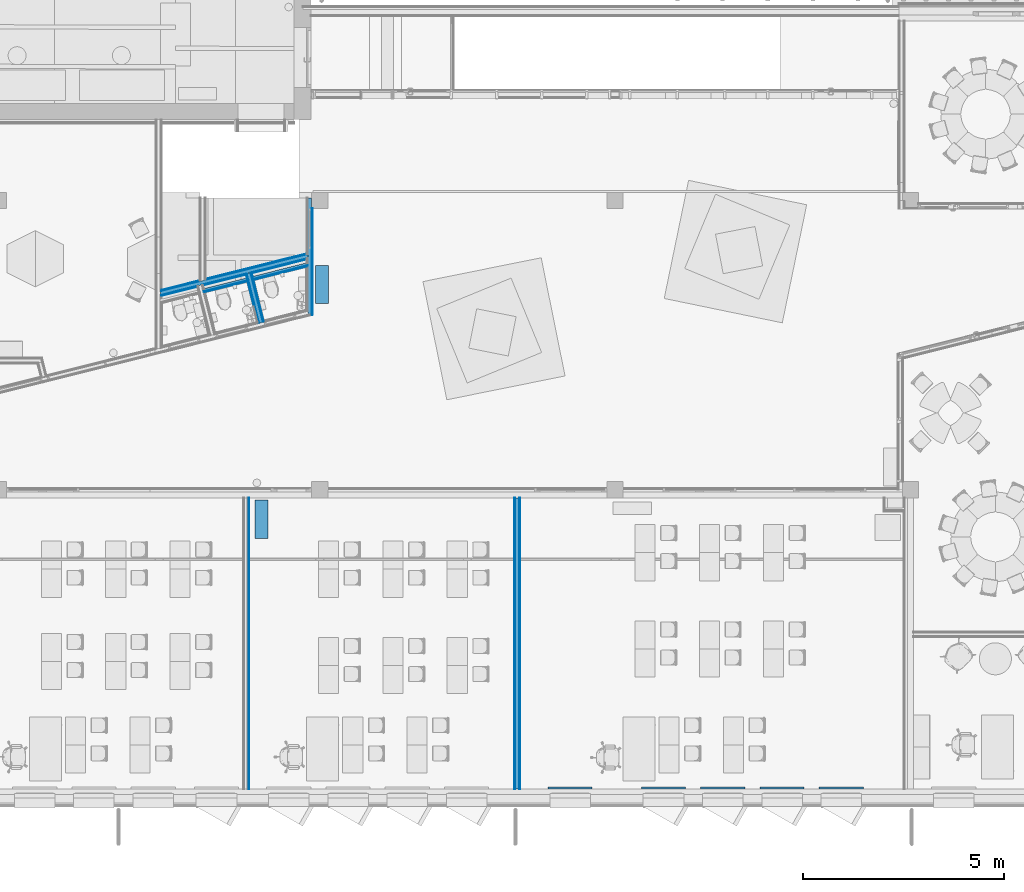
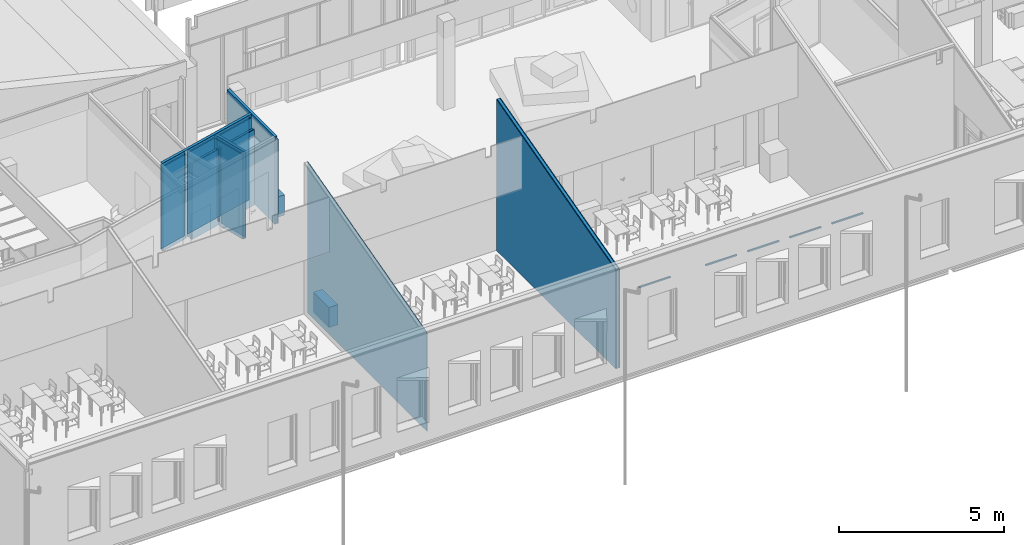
# One storey, part 56 of 153: 25 building element parts, 7 discrete accessories, 1 opening, 7 elements without a shape of their own.
"""IFC2X3 building model written with IfcOpenShell, lengths in millimetres."""

from ifc_helpers import new_model, entity, si_unit, converted_unit, derived_unit, money_unit, direction, frame, origin_with_axes, place, context, subcontext, project, spatial, faceted_brep, material, type_object, element, aggregate, save


model = new_model("IFC2X3")

# Units and contexts
model_context = context("Model", 3, precision=0.01, world=origin_with_axes(), true_north=direction((0.0, 1.0)))
body_context = subcontext(model_context, "Body", "Model", "MODEL_VIEW")
ifc_project = project(units=[si_unit("LENGTHUNIT", "METRE", prefix="MILLI"), si_unit("AREAUNIT", "SQUARE_METRE"), si_unit("VOLUMEUNIT", "CUBIC_METRE"), converted_unit("PLANEANGLEUNIT", "DEGREE", entity("IfcPlaneAngleMeasure", 0.0174532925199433), si_unit("PLANEANGLEUNIT", "RADIAN"), dimensions=[0, 0, 0, 0, 0, 0, 0]), money_unit("EUR"), converted_unit("TIMEUNIT", "Year", entity("IfcTimeMeasure", 31557600.0), si_unit("TIMEUNIT", "SECOND"), dimensions=[0, 0, 1, 0, 0, 0, 0]), si_unit("MASSUNIT", "GRAM", prefix="KILO"), si_unit("THERMODYNAMICTEMPERATUREUNIT", "DEGREE_CELSIUS"), si_unit("LUMINOUSINTENSITYUNIT", "LUMEN"), si_unit("ENERGYUNIT", "JOULE", prefix="MEGA"), derived_unit("THERMALCONDUCTANCEUNIT", [(si_unit("POWERUNIT", "WATT"), 1), (si_unit("LENGTHUNIT", "METRE"), -1), (si_unit("THERMODYNAMICTEMPERATUREUNIT", "KELVIN"), -1)]), derived_unit("SPECIFICHEATCAPACITYUNIT", [(si_unit("ENERGYUNIT", "JOULE"), 1), (si_unit("MASSUNIT", "GRAM", prefix="KILO"), -1), (si_unit("THERMODYNAMICTEMPERATUREUNIT", "KELVIN"), -1)]), derived_unit("MASSDENSITYUNIT", [(si_unit("MASSUNIT", "GRAM", prefix="KILO"), 1), (si_unit("VOLUMEUNIT", "CUBIC_METRE"), -1)])], contexts=[model_context])

# Site, building, storey
site_placement = place(None, frame((0.0, 0.0, 8650.0), z_axis=(0.0, 0.0, 1.0), x_axis=(1.0, 0.0, 0.0)))
site = spatial("IfcSite", under=ifc_project, at=site_placement, Name="43301:001:0844", CompositionType="ELEMENT")
building_placement = place(site_placement, origin_with_axes())
building = spatial("IfcBuilding", under=site, at=building_placement, Name="Kuressaare Ametikooli tuulikute mehaanikute õppekorpus", CompositionType="ELEMENT")
storey_placement = place(building_placement, frame((0.0, 0.0, 4100.0), z_axis=(0.0, 0.0, 1.0), x_axis=(1.0, 0.0, 0.0)))
storey = spatial("IfcBuildingStorey", under=building, at=storey_placement, Name="2.korrus", CompositionType="ELEMENT", Elevation=4100.0)

# Discrete accessories
ifc_material_1 = material(Name="GENEERILINE - KONSTRUKTRIOON")
discrete_accessory_type_1 = type_object("IfcDiscreteAccessoryType", Name="GENEERILINE - KONSTRUKTRIOON 50")
for number, where, z_axis, x_axis, name in (
    (1, (109547.9495291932, 9123.838490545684, 2700.0), (0.0, 0.0, 1.0), (1.0, 0.0, 0.0), "RK"),
    (2, (111872.9495291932, 9123.838490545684, 2700.0), (0.0, 0.0, 1.0), (1.0, 0.0, 0.0), "RK"),
    (3, (113347.9495291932, 9123.838490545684, 2700.0), (0.0, 0.0, 1.0), (1.0, 0.0, 0.0), "RK"),
    (4, (114822.9495291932, 9123.838490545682, 2700.0), (0.0, 0.0, 1.0), (1.0, 0.0, 0.0), "RK"),
    (5, (116297.9495291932, 9123.838490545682, 2700.0), (0.0, 0.0, 1.0), (1.0, 0.0, 0.0), "RK"),
):
    element("IfcDiscreteAccessory", number, at=place(storey_placement, frame(where, z_axis=z_axis, x_axis=x_axis)), inside=storey, type_object=discrete_accessory_type_1, material=ifc_material_1, Name=name, context=body_context, shape_type="Brep", body=[
        faceted_brep([(0.0, 0.0, 49.99999999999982), (0.0, 0.0, 0.0), (1099.999999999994, 0.0, 0.0), (1099.999999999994, 0.0, 49.99999999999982), (0.0, 50.00000000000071, 49.99999999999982), (0.0, 50.00000000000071, 0.0), (1099.999999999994, 50.00000000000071, 0.0), (1099.999999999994, 50.00000000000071, 49.99999999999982)], [[[0, 1, 2, 3]], [[4, 5, 1, 0]], [[2, 1, 5, 6]], [[3, 2, 6, 7]], [[4, 0, 3, 7]], [[7, 6, 5, 4]]]),
    ])
discrete_accessory_type_2 = type_object("IfcDiscreteAccessoryType", Name="GENEERILINE - KONSTRUKTRIOON 750")
discrete_accessory_1_placement = place(storey_placement, frame((102580.4575106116, 16314.40899813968, 0.0), z_axis=(0.0, 0.0, 1.0), x_axis=(1.0, 0.0, 0.0)))
element("IfcDiscreteAccessory", 6, at=discrete_accessory_1_placement, inside=storey, type_object=discrete_accessory_type_2, material=ifc_material_1, Name="PR2", context=body_context, shape_type="Brep", body=[
    faceted_brep([(0.0, 0.0, 750.0), (0.0, 0.0, 0.0), (-319.9999999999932, 0.0, 0.0), (-319.9999999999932, 0.0, 750.0), (0.0, -949.9999999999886, 750.0), (0.0, -949.9999999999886, 0.0), (-319.9999999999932, -949.9999999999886, 0.0), (-319.9999999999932, -949.9999999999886, 750.0)], [[[0, 1, 2, 3]], [[4, 5, 1, 0]], [[2, 1, 5, 6]], [[3, 2, 6, 7]], [[4, 0, 3, 7]], [[7, 6, 5, 4]]]),
])
discrete_accessory_2_placement = place(storey_placement, frame((103762.9734441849, 22158.85674379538, 0.0), z_axis=(0.0, 0.0, 1.0), x_axis=(1.0, 0.0, 0.0)))
element("IfcDiscreteAccessory", 7, at=discrete_accessory_2_placement, inside=storey, type_object=discrete_accessory_type_2, material=ifc_material_1, Name="PR2", context=body_context, shape_type="Brep", body=[
    faceted_brep([(0.0, 0.0, 750.0), (0.0, 0.0, 0.0), (0.0, -949.9999999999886, 0.0), (0.0, -949.9999999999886, 750.0), (319.9999999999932, 0.0, 750.0), (319.9999999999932, 0.0, 0.0), (319.9999999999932, -949.9999999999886, 0.0), (319.9999999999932, -949.9999999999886, 750.0)], [[[0, 1, 2, 3]], [[4, 5, 1, 0]], [[2, 1, 5, 6]], [[3, 2, 6, 7]], [[4, 0, 3, 7]], [[7, 6, 5, 4]]]),
])

# Wall, building element parts
wall_type_1 = type_object("IfcWallType", Name="SS-2.4 92", PredefinedType="NOTDEFINED")
wall_1_placement = place(storey_placement, frame((100867.4838133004, 21454.15929766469, 0.0), z_axis=(0.0, 0.0, 1.0), x_axis=(0.9699953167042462, 0.2431236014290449, 0.0)))
wall_1 = element("IfcWall", 8, at=wall_1_placement, inside=storey, type_object=wall_type_1, Name="Sisesein")
ifc_material_2 = material(Name="Air Space - Frame")
building_element_part_1_placement = place(wall_1_placement, origin_with_axes())
building_element_part_1 = element("IfcBuildingElementPart", 9, at=building_element_part_1_placement, material=ifc_material_2, Name="Air Space - Frame", context=body_context, shape_type="Brep", body=[
    faceted_brep([(1273.000179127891, 25.9997749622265, 0.0), (1273.000179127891, 25.99977496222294, 2800.0), (121.000008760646, 25.99999999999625, 2800.0), (121.000008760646, 25.99999999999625, 0.0), (1273.000192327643, 91.999774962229, 0.0), (1273.000192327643, 91.999774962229, 2800.0), (121.0000309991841, 91.9999999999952, 2800.0), (121.0000309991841, 91.9999999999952, 0.0)], [[[0, 1, 2, 3]], [[1, 0, 4, 5]], [[1, 5, 6, 2]], [[6, 7, 3, 2]], [[4, 0, 3, 7]], [[4, 7, 6, 5]]]),
])
ifc_material_3 = material(Name="Plaster - Gypsum")
building_element_part_2_placement = place(wall_1_placement, origin_with_axes())
building_element_part_2 = element("IfcBuildingElementPart", 10, at=building_element_part_2_placement, material=ifc_material_3, Name="Plaster - Gypsum", context=body_context, shape_type="Brep", body=[
    faceted_brep([(1247.000173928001, -0.0002148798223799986, 0.0), (1247.000173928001, -0.0002148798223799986, 2800.0), (147.0000000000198, 0.0, 2800.0), (147.0000000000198, 0.0, 0.0), (1247.000176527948, 12.99978512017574, 0.0), (1247.000176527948, 12.99978512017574, 2800.0), (147.000004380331, 13.00000000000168, 2800.0), (147.000004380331, 13.00000000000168, 0.0)], [[[0, 1, 2, 3]], [[1, 0, 4, 5]], [[1, 5, 6, 2]], [[6, 7, 3, 2]], [[4, 0, 3, 7]], [[4, 7, 6, 5]]]),
])
ifc_material_4 = material(Name="Plywood")
building_element_part_3_placement = place(wall_1_placement, origin_with_axes())
building_element_part_3 = element("IfcBuildingElementPart", 11, at=building_element_part_3_placement, material=ifc_material_4, Name="Plywood", context=body_context, shape_type="Brep", body=[
    faceted_brep([(1273.000176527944, 12.99977496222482, 0.0), (1273.000176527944, 12.99977496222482, 2800.0), (121.0000043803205, 13.00000000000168, 2800.0), (121.0000043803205, 13.00000000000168, 0.0), (1273.000179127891, 25.99977496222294, 0.0), (1273.000179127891, 25.99977496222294, 2800.0), (121.000008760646, 25.99999999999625, 2800.0), (121.000008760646, 25.99999999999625, 0.0)], [[[0, 1, 2, 3]], [[1, 0, 4, 5]], [[1, 5, 6, 2]], [[6, 7, 3, 2]], [[4, 0, 3, 7]], [[4, 7, 6, 5]]]),
])
aggregate(wall_1, [building_element_part_1, building_element_part_2, building_element_part_3])

wall_type_2 = type_object("IfcWallType", Name="SS-2.2 147", PredefinedType="NOTDEFINED")
wall_2_placement = place(storey_placement, frame((102035.7372533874, 21922.23332112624, 0.0), z_axis=(0.0, 0.0, 1.0), x_axis=(0.2431234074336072, -0.9699953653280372, 0.0)))
wall_2 = element("IfcWall", 12, at=wall_2_placement, inside=storey, type_object=wall_type_2, Name="Sisesein")
ifc_material_5 = material(Name="Kipsplaat")
building_element_part_4_placement = place(wall_2_placement, origin_with_axes())
building_element_part_4 = element("IfcBuildingElementPart", 13, at=building_element_part_4_placement, material=ifc_material_5, Name="Kipsplaat", context=body_context, shape_type="Brep", body=[
    faceted_brep([(0.0, 147.0000000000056, 3129.999999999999), (1223.000003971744, 146.9999999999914, 3129.999999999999), (1223.000003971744, 146.9999999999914, 0.0), (156.9998410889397, 147.0000000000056, 0.0), (156.9998410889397, 147.0000000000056, 2800.0), (77.99984108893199, 146.9999999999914, 2800.0), (77.99984108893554, 147.0000000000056, 0.0), (0.0, 147.0000000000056, 0.0), (1223.000002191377, 134.0000000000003, 3129.999999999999), (0.0, 134.0000000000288, 3129.999999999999), (1223.000002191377, 134.0000000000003, 0.0), (156.9998436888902, 134.0000000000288, 0.0), (156.9998436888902, 134.0000000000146, 2800.0), (77.99984368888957, 134.0000000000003, 2800.0), (77.99984368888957, 134.0000000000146, 0.0), (0.0, 134.0000000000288, 0.0)], [[[0, 1, 2, 3, 4, 5, 6, 7]], [[8, 1, 0, 9]], [[1, 8, 10, 2]], [[10, 11, 3, 2]], [[12, 4, 3, 11]], [[4, 12, 13, 5]], [[5, 13, 14, 6]], [[7, 6, 14, 15]], [[9, 0, 7, 15]], [[8, 9, 15, 14, 13, 12, 11, 10]]]),
])
ifc_material_6 = material(Name="Soojustus - Mineraalvill pehme")
building_element_part_5_placement = place(wall_2_placement, origin_with_axes())
building_element_part_5 = element("IfcBuildingElementPart", 14, at=building_element_part_5_placement, material=ifc_material_6, Name="Soojustus - Mineraalvill pehme", context=body_context, shape_type="Brep", body=[
    faceted_brep([(-25.99999999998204, 121.0000000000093, 3240.0), (1249.000000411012, 120.9999999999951, 3240.0), (1249.000000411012, 120.9999999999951, 0.0), (-25.99999999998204, 121.0000000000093, 0.0), (1248.999987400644, 26.00000000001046, 3240.0), (-25.99999999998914, 26.00000000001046, 3240.0), (1248.999987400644, 26.00000000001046, 0.0), (-25.99999999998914, 25.99999999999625, 0.0)], [[[0, 1, 2, 3]], [[4, 1, 0, 5]], [[1, 4, 6, 2]], [[3, 2, 6, 7]], [[5, 0, 3, 7]], [[4, 5, 7, 6]]]),
])
building_element_part_6_placement = place(wall_2_placement, origin_with_axes())
building_element_part_6 = element("IfcBuildingElementPart", 15, at=building_element_part_6_placement, material=ifc_material_5, Name="Kipsplaat", context=body_context, shape_type="Brep", body=[
    faceted_brep([(-12.99999999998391, 134.0000000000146, 3145.0), (1236.000002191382, 134.0000000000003, 3145.0), (1236.000002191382, 134.0000000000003, 0.0), (156.9998436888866, 134.0000000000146, 0.0), (156.9998436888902, 134.0000000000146, 2800.0), (77.99984368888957, 134.0000000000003, 2800.0), (77.99984368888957, 134.0000000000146, 0.0), (-12.99999999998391, 134.0000000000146, 0.0), (1236.000000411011, 120.9999999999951, 3145.0), (-12.99999999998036, 121.0000000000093, 3145.0), (1236.000000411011, 120.9999999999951, 0.0), (156.9998462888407, 121.0000000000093, 0.0), (156.9998462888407, 121.0000000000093, 2800.0), (77.99984628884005, 121.0000000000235, 2800.0), (77.99984628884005, 121.0000000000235, 0.0), (-12.99999999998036, 121.0000000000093, 0.0)], [[[0, 1, 2, 3, 4, 5, 6, 7]], [[8, 1, 0, 9]], [[1, 8, 10, 2]], [[10, 11, 3, 2]], [[12, 4, 3, 11]], [[4, 12, 13, 5]], [[5, 13, 14, 6]], [[7, 6, 14, 15]], [[9, 0, 7, 15]], [[8, 9, 15, 14, 13, 12, 11, 10]]]),
])
building_element_part_7_placement = place(wall_2_placement, origin_with_axes())
building_element_part_7 = element("IfcBuildingElementPart", 16, at=building_element_part_7_placement, material=ifc_material_5, Name="Kipsplaat", context=body_context, shape_type="Brep", body=[
    faceted_brep([(-12.99999999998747, 26.00000000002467, 3145.0), (1235.999987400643, 26.00000000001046, 3145.0), (1235.999987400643, 26.00000000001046, 0.0), (156.9998483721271, 25.99999999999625, 0.0), (156.9998483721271, 25.99999999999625, 2800.0), (77.99984837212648, 26.00000000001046, 2800.0), (77.99984837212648, 26.00000000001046, 0.0), (-12.99999999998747, 26.00000000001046, 0.0), (1235.999985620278, 13.00000000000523, 3145.0), (-12.99999999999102, 13.00000000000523, 3145.0), (1235.999985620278, 13.00000000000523, 0.0), (156.9998486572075, 13.00000000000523, 0.0), (156.9998486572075, 12.99999999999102, 2800.0), (77.99984865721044, 13.00000000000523, 2800.0), (77.99984865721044, 13.00000000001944, 0.0), (-12.99999999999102, 13.00000000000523, 0.0)], [[[0, 1, 2, 3, 4, 5, 6, 7]], [[8, 1, 0, 9]], [[1, 8, 10, 2]], [[10, 11, 3, 2]], [[12, 4, 3, 11]], [[5, 4, 12, 13]], [[5, 13, 14, 6]], [[7, 6, 14, 15]], [[9, 0, 7, 15]], [[8, 9, 15, 14, 13, 12, 11, 10]]]),
])
building_element_part_8_placement = place(wall_2_placement, origin_with_axes())
building_element_part_8 = element("IfcBuildingElementPart", 17, at=building_element_part_8_placement, material=ifc_material_5, Name="Kipsplaat", context=body_context, shape_type="Brep", body=[
    faceted_brep([(0.0, 13.00000000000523, 3129.999999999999), (1222.999985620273, 13.00000000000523, 3129.999999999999), (1222.999985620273, 13.00000000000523, 0.0), (156.9998486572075, 13.00000000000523, 0.0), (156.9998486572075, 12.99999999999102, 2800.0), (77.99984865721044, 13.00000000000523, 2800.0), (77.99984865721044, 13.00000000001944, 0.0), (0.0, 13.00000000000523, 0.0), (1222.999983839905, 0.0, 3129.999999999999), (0.0, 0.0, 3129.999999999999), (1222.999983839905, 0.0, 0.0), (156.9998489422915, 0.0, 0.0), (156.9998489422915, 0.0, 2800.0), (77.99984894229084, 0.0, 2800.0), (77.99984894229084, 0.0, 0.0), (0.0, 0.0, 0.0)], [[[0, 1, 2, 3, 4, 5, 6, 7]], [[8, 1, 0, 9]], [[1, 8, 10, 2]], [[10, 11, 3, 2]], [[12, 4, 3, 11]], [[5, 4, 12, 13]], [[5, 13, 14, 6]], [[7, 6, 14, 15]], [[9, 0, 7, 15]], [[8, 9, 15, 14, 13, 12, 11, 10]]]),
])
aggregate(wall_2, [building_element_part_4, building_element_part_5, building_element_part_6, building_element_part_7, building_element_part_8])

wall_type_3 = type_object("IfcWallType", Name="SS-2.1 147", PredefinedType="NOTDEFINED")
wall_3_placement = place(storey_placement, frame((99785.61828844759, 21358.25476056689, 0.0), z_axis=(0.0, 0.0, 1.0), x_axis=(0.9699953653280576, 0.2431234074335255, 0.0)))
wall_3 = element("IfcWall", 18, at=wall_3_placement, inside=storey, type_object=wall_type_3, Name="Sisesein")
building_element_part_9_placement = place(wall_3_placement, origin_with_axes())
building_element_part_9 = element("IfcBuildingElementPart", 19, at=building_element_part_9_placement, material=ifc_material_5, Name="Kipsplaat", context=body_context, shape_type="Brep", body=[
    faceted_brep([(1309.015678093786, 146.9999999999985, 3129.999999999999), (3914.526945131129, 147.000000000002, 3129.999999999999), (3914.526945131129, 147.000000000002, 0.0), (1309.015678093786, 146.9999999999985, 0.0), (3911.268574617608, 134.0000000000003, 3129.999999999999), (1305.757307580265, 133.9999999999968, 3129.999999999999), (3911.268574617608, 134.0000000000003, 0.0), (1305.757307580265, 133.9999999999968, 0.0)], [[[0, 1, 2, 3]], [[4, 1, 0, 5]], [[1, 4, 6, 2]], [[2, 6, 7, 3]], [[5, 0, 3, 7]], [[4, 5, 7, 6]]]),
    faceted_brep([(188.3917670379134, 146.9999999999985, 3129.999999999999), (1184.272814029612, 146.9999999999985, 3129.999999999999), (1184.272814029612, 146.9999999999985, 0.0), (188.3917670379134, 146.9999999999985, 0.0), (1181.014443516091, 133.9999999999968, 3129.999999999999), (185.1333965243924, 134.0000000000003, 3129.999999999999), (1181.014443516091, 133.9999999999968, 0.0), (185.1333965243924, 134.0000000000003, 0.0)], [[[0, 1, 2, 3]], [[4, 1, 0, 5]], [[1, 4, 6, 2]], [[2, 6, 7, 3]], [[5, 0, 3, 7]], [[4, 5, 7, 6]]]),
])
building_element_part_10_placement = place(wall_3_placement, origin_with_axes())
building_element_part_10 = element("IfcBuildingElementPart", 20, at=building_element_part_10_placement, material=ifc_material_5, Name="Kipsplaat", context=body_context, shape_type="Brep", body=[
    faceted_brep([(1292.355181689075, 134.0000000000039, 3145.0), (3924.670700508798, 134.0000000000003, 3145.0), (3924.670700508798, 134.0000000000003, 0.0), (1292.355181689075, 134.0000000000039, 0.0), (3921.412329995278, 121.0000000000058, 3145.0), (1289.096811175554, 121.0000000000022, 3145.0), (3921.412329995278, 121.0000000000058, 0.0), (1289.096811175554, 121.0000000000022, 0.0)], [[[0, 1, 2, 3]], [[4, 1, 0, 5]], [[1, 4, 6, 2]], [[2, 6, 7, 3]], [[5, 0, 3, 7]], [[4, 5, 7, 6]]]),
    faceted_brep([(171.7312706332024, 134.0000000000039, 3145.0), (1194.416569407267, 134.0000000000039, 3145.0), (1194.416569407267, 134.0000000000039, 0.0), (171.7312706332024, 134.0000000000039, 0.0), (1191.15819889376, 121.0000000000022, 3145.0), (168.4729001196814, 121.0000000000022, 3145.0), (1191.15819889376, 121.0000000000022, 0.0), (168.4729001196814, 121.0000000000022, 0.0)], [[[0, 1, 2, 3]], [[4, 1, 0, 5]], [[1, 4, 6, 2]], [[2, 6, 7, 3]], [[5, 0, 3, 7]], [[4, 5, 7, 6]]]),
])
building_element_part_11_placement = place(wall_3_placement, origin_with_axes())
building_element_part_11 = element("IfcBuildingElementPart", 21, at=building_element_part_11_placement, material=ifc_material_5, Name="Kipsplaat", context=body_context, shape_type="Brep", body=[
    faceted_brep([(2440.721356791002, 26.00000000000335, 3145.0), (3897.601160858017, 26.00000000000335, 3145.0), (3897.601160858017, 26.00000000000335, 0.0), (2440.721356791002, 26.00000000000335, 0.0), (3894.342790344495, 13.00000000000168, 3145.0), (2440.721356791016, 12.99999999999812, 3145.0), (3894.342790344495, 13.00000000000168, 0.0), (2440.721356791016, 12.99999999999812, 0.0)], [[[0, 1, 2, 3]], [[4, 1, 0, 5]], [[1, 4, 6, 2]], [[2, 6, 7, 3]], [[5, 0, 3, 7]], [[4, 5, 7, 6]]]),
    faceted_brep([(2345.721356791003, 25.9999999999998, 3145.0), (2345.721356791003, 13.00000000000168, 3145.0), (2345.721356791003, 13.00000000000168, 0.0), (2345.721356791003, 25.9999999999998, 0.0), (1193.721207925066, 12.99999999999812, 3145.0), (1193.721209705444, 25.9999999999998, 3145.0), (1193.721207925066, 12.99999999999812, 0.0), (1193.721209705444, 25.9999999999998, 0.0)], [[[0, 1, 2, 3]], [[4, 1, 0, 5]], [[1, 4, 6, 2]], [[3, 2, 6, 7]], [[5, 0, 3, 7]], [[4, 5, 7, 6]]]),
    faceted_brep([(1098.721209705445, 25.9999999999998, 3145.0), (1098.721207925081, 13.00000000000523, 3145.0), (1098.721207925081, 13.00000000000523, 0.0), (1098.721209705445, 25.9999999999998, 0.0), (141.4033604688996, 13.00000000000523, 3145.0), (144.6617309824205, 25.9999999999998, 3145.0), (141.4033604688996, 13.00000000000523, 0.0), (144.6617309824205, 25.9999999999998, 0.0)], [[[0, 1, 2, 3]], [[4, 1, 0, 5]], [[1, 4, 6, 2]], [[3, 2, 6, 7]], [[5, 0, 3, 7]], [[4, 5, 7, 6]]]),
])
building_element_part_12_placement = place(wall_3_placement, origin_with_axes())
building_element_part_12 = element("IfcBuildingElementPart", 22, at=building_element_part_12_placement, material=ifc_material_6, Name="Soojustus - Mineraalvill pehme", context=body_context, shape_type="Brep", body=[
    faceted_brep([(155.0707742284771, 120.9999999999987, 3240.0), (3934.814455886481, 121.0000000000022, 3240.0), (3934.814455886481, 121.0000000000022, 0.0), (155.0707742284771, 120.9999999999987, 0.0), (3911.003286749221, 26.00000000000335, 3240.0), (131.2596050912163, 25.9999999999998, 3240.0), (3911.003286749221, 26.00000000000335, 0.0), (131.2596050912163, 25.9999999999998, 0.0)], [[[0, 1, 2, 3]], [[4, 1, 0, 5]], [[1, 4, 6, 2]], [[2, 6, 7, 3]], [[5, 0, 3, 7]], [[4, 5, 7, 6]]]),
])
building_element_part_13_placement = place(wall_3_placement, origin_with_axes())
building_element_part_13 = element("IfcBuildingElementPart", 23, at=building_element_part_13_placement, material=ifc_material_5, Name="Kipsplaat", context=body_context, shape_type="Brep", body=[
    faceted_brep([(2453.721356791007, 13.00000000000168, 3129.999999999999), (3880.940664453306, 13.00000000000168, 3129.999999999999), (3880.940664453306, 13.00000000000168, 0.0), (2453.721356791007, 13.00000000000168, 0.0), (3877.682293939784, 0.0, 3129.999999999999), (2453.721356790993, 0.0, 3129.999999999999), (3877.682293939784, 0.0, 0.0), (2453.721356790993, 0.0, 0.0)], [[[0, 1, 2, 3]], [[4, 1, 0, 5]], [[1, 4, 6, 2]], [[2, 6, 7, 3]], [[5, 0, 3, 7]], [[4, 5, 7, 6]]]),
    faceted_brep([(2332.721356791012, 13.00000000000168, 3129.999999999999), (2332.721356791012, 0.0, 3129.999999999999), (2332.721356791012, 0.0, 0.0), (2332.721356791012, 13.00000000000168, 0.0), (1206.721206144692, 0.0, 3129.999999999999), (1206.721207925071, 13.00000000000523, 3129.999999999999), (1206.721206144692, 0.0, 0.0), (1206.721207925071, 13.00000000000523, 0.0)], [[[0, 1, 2, 3]], [[4, 1, 0, 5]], [[1, 4, 6, 2]], [[3, 2, 6, 7]], [[5, 0, 3, 7]], [[4, 5, 7, 6]]]),
    faceted_brep([(1085.721207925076, 13.00000000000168, 3129.999999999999), (1085.721206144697, 0.0, 3129.999999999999), (1085.721206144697, 0.0, 0.0), (1085.721207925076, 13.00000000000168, 0.0), (151.5471158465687, 0.0, 3129.999999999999), (154.8054863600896, 13.00000000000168, 3129.999999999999), (151.5471158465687, 0.0, 0.0), (154.8054863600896, 13.00000000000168, 0.0)], [[[0, 1, 2, 3]], [[4, 1, 0, 5]], [[1, 4, 6, 2]], [[3, 2, 6, 7]], [[5, 0, 3, 7]], [[4, 5, 7, 6]]]),
])
aggregate(wall_3, [building_element_part_9, building_element_part_10, building_element_part_11, building_element_part_12, building_element_part_13])

# Wall, opening, building element parts
wall_4_placement = place(storey_placement, frame((103693.9521417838, 23834.06964326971, 0.0), z_axis=(0.0, 0.0, 1.0), x_axis=(0.0, -1.0, 0.0)))
wall_4 = element("IfcWall", 24, at=wall_4_placement, inside=storey, type_object=wall_type_3, Name="Sisesein")
opening_placement = place(wall_4_placement, frame((765.0007193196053, 0.0, 0.0), z_axis=(0.0, 0.0, 1.0), x_axis=(1.0, 0.0, 0.0)))
element("IfcOpeningElement", 25, at=opening_placement, cuts=wall_4, Name="PU10,EI30", context=body_context, shape_type="Brep", body=[
    faceted_brep([(-504.999999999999, -148.0000000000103, 2110.0), (-504.999999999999, -148.0000000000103, 0.0), (504.999999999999, -148.0000000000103, 0.0), (504.999999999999, -148.0000000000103, 2110.0), (-504.999999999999, 1.000000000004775, 2110.0), (-504.999999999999, 1.000000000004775, 0.0), (504.999999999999, 1.000000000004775, 0.0), (504.999999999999, 1.000000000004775, 2110.0)], [[[0, 1, 2, 3]], [[4, 5, 1, 0]], [[5, 6, 2, 1]], [[6, 7, 3, 2]], [[7, 4, 0, 3]], [[6, 5, 4, 7]]]),
])
building_element_part_14_placement = place(wall_4_placement, origin_with_axes())
building_element_part_14 = element("IfcBuildingElementPart", 26, at=building_element_part_14_placement, material=ifc_material_5, Name="Kipsplaat", context=body_context, shape_type="Brep", body=[
    faceted_brep([(1270.000719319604, 0.0, 0.0), (1270.000719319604, 0.0, 2110.0), (260.0007193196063, 0.0, 2110.0), (260.0007193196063, 0.0, 3129.999999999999), (2908.592957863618, 0.0, 3129.999999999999), (2908.592957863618, 0.0, 0.0), (1270.000719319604, -13.00000000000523, 0.0), (1270.000719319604, -13.00000000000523, 2110.0), (260.0007193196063, -13.00000000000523, 2110.0), (260.0007193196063, -13.00000000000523, 3129.999999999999), (2911.851326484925, -13.00000000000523, 3129.999999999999), (2911.851326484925, -13.00000000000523, 0.0)], [[[0, 1, 2, 3, 4, 5]], [[1, 0, 6, 7]], [[8, 2, 1, 7]], [[2, 8, 9, 3]], [[9, 10, 4, 3]], [[4, 10, 11, 5]], [[6, 0, 5, 11]], [[7, 6, 11, 10, 9, 8]]]),
])
building_element_part_15_placement = place(wall_4_placement, origin_with_axes())
building_element_part_15 = element("IfcBuildingElementPart", 27, at=building_element_part_15_placement, material=ifc_material_5, Name="Kipsplaat", context=body_context, shape_type="Brep", body=[
    faceted_brep([(1270.000719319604, -13.00000000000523, 0.0), (1270.000719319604, -13.00000000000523, 2110.0), (260.0007193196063, -13.00000000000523, 2110.0), (260.0007193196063, -13.00000000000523, 3145.0), (2898.449201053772, -13.00000000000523, 3145.0), (2898.449201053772, -13.00000000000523, 0.0), (1270.000719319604, -25.99999999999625, 0.0), (1270.000719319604, -25.99999999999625, 2110.0), (260.0007193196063, -25.99999999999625, 2110.0), (260.0007193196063, -25.99999999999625, 3145.0), (2901.707569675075, -25.99999999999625, 3145.0), (2901.707569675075, -25.99999999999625, 0.0)], [[[0, 1, 2, 3, 4, 5]], [[1, 0, 6, 7]], [[8, 2, 1, 7]], [[2, 8, 9, 3]], [[9, 10, 4, 3]], [[4, 10, 11, 5]], [[6, 0, 5, 11]], [[7, 6, 11, 10, 9, 8]]]),
])
building_element_part_16_placement = place(wall_4_placement, origin_with_axes())
building_element_part_16 = element("IfcBuildingElementPart", 28, at=building_element_part_16_placement, material=ifc_material_6, Name="Soojustus - Mineraalvill pehme", context=body_context, shape_type="Brep", body=[
    faceted_brep([(1270.000719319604, -25.99999999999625, 0.0), (1270.000719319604, -25.99999999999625, 2110.0), (260.0007193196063, -25.99999999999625, 2110.0), (260.0007193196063, -25.99999999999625, 0.0), (0.0, -25.99999999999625, 0.0), (0.0, -25.99999999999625, 3240.0), (2888.305444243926, -25.99999999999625, 3240.0), (2888.305444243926, -25.99999999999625, 0.0), (1270.000719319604, -120.9999999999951, 0.0), (1270.000719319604, -120.9999999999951, 2110.0), (260.0007193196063, -120.9999999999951, 2110.0), (260.0007193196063, -120.9999999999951, 0.0), (0.0, -120.9999999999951, 0.0), (0.0, -120.9999999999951, 3240.0), (2912.116599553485, -120.9999999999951, 3240.0), (2912.116599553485, -120.9999999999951, 0.0)], [[[0, 1, 2, 3, 4, 5, 6, 7]], [[1, 0, 8, 9]], [[2, 1, 9, 10]], [[3, 2, 10, 11]], [[3, 11, 12, 4]], [[13, 5, 4, 12]], [[6, 5, 13, 14]], [[6, 14, 15, 7]], [[8, 0, 7, 15]], [[9, 8, 15, 14, 13, 12, 11, 10]]]),
])
aggregate(wall_4, [building_element_part_14, building_element_part_15, building_element_part_16])

# Wall, building element part
wall_5_placement = place(storey_placement, frame((102108.0683708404, 9123.83842601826, 0.0), z_axis=(0.0, 0.0, 1.0), x_axis=(-1.33078091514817e-07, 0.9999999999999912, 0.0)))
wall_5 = element("IfcWall", 29, at=wall_5_placement, inside=storey, type_object=wall_type_2, Name="Sisesein")
building_element_part_17_placement = place(wall_5_placement, origin_with_axes())
building_element_part_17 = element("IfcBuildingElementPart", 30, at=building_element_part_17_placement, material=ifc_material_5, Name="Kipsplaat", context=body_context, shape_type="Brep", body=[
    faceted_brep([(7250.205384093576, 13.00000000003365, 5607.485637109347), (7250.205376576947, 0.0, 5607.485635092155), (7250.205424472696, 0.0, 3589.999999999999), (7250.205424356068, 12.99999999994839, 3589.999999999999), (0.001068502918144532, 1.13686837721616e-10, 3664.799245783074), (0.00106955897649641, 13.00000000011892, 3664.799246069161), (6.452742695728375e-05, 0.0, 0.0), (7250.210284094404, 0.0, 0.0), (7250.210284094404, 0.0, 3259.999999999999), (7250.210284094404, 13.00000000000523, 3259.999999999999), (7250.210284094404, 13.00000000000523, 0.0), (6.625744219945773e-05, 13.00000000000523, 0.0)], [[[0, 1, 2, 3]], [[4, 1, 0, 5]], [[1, 4, 6, 7, 8, 2]], [[2, 8, 9, 3]], [[5, 0, 3, 9, 10, 11]], [[4, 5, 11, 6]], [[7, 6, 11, 10]], [[8, 7, 10, 9]]]),
])
aggregate(wall_5, [building_element_part_17])

# Wall, building element parts
wall_6_placement = place(storey_placement, frame((108858.0683845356, 9123.838490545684, 0.0), z_axis=(0.0, 0.0, 1.0), x_axis=(0.0, 1.0, 0.0)))
wall_6 = element("IfcWall", 31, at=wall_6_placement, inside=storey, type_object=wall_type_2, Name="Sisesein")
building_element_part_18_placement = place(wall_6_placement, origin_with_axes())
building_element_part_18 = element("IfcBuildingElementPart", 32, at=building_element_part_18_placement, material=ifc_material_5, Name="Kipsplaat", context=body_context, shape_type="Brep", body=[
    faceted_brep([(7250.210940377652, 146.9999996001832, 5607.486906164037), (7250.210925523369, 133.9999999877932, 5607.486901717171), (7250.206299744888, 133.9999999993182, 3589.999999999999), (7250.206297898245, 146.9999999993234, 3589.999999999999), (0.001346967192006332, 133.9999999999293, 3664.799100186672), (0.001346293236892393, 146.9999906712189, 3664.799100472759), (0.0, 134.0000000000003, 0.0), (7250.211100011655, 134.0000000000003, 0.0), (7250.211100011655, 134.0000000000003, 3259.999999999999), (7250.211098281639, 147.0000000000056, 3259.999999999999), (7250.211098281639, 147.0000000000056, 0.0), (0.0, 147.0000000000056, 0.0)], [[[0, 1, 2, 3]], [[4, 1, 0, 5]], [[1, 4, 6, 7, 8, 2]], [[2, 8, 9, 3]], [[5, 0, 3, 9, 10, 11]], [[4, 5, 11, 6]], [[7, 6, 11, 10]], [[8, 7, 10, 9]]]),
])
building_element_part_19_placement = place(wall_6_placement, origin_with_axes())
building_element_part_19 = element("IfcBuildingElementPart", 33, at=building_element_part_19_placement, material=ifc_material_5, Name="Kipsplaat", context=body_context, shape_type="Brep", body=[
    faceted_brep([(7250.210925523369, 133.9999999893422, 5607.486901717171), (7250.210910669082, 120.9999999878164, 5607.486897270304), (7250.206301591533, 120.999999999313, 3589.999999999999), (7250.206299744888, 133.9999999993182, 3589.999999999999), (0.001347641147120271, 120.9999999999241, 3664.799099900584), (0.001346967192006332, 133.9999999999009, 3664.799100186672), (0.0, 120.9999999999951, 0.0), (7250.211101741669, 120.9999999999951, 0.0), (7250.211101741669, 120.9999999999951, 3259.999999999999), (7250.211100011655, 134.0000000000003, 3259.999999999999), (7250.211100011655, 134.0000000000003, 0.0), (0.0, 134.0000000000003, 0.0)], [[[0, 1, 2, 3]], [[4, 1, 0, 5]], [[1, 4, 6, 7, 8, 2]], [[2, 8, 9, 3]], [[5, 0, 3, 9, 10, 11]], [[4, 5, 11, 6]], [[7, 6, 11, 10]], [[8, 7, 10, 9]]]),
])
building_element_part_20_placement = place(wall_6_placement, origin_with_axes())
building_element_part_20 = element("IfcBuildingElementPart", 34, at=building_element_part_20_placement, material=ifc_material_6, Name="Soojustus - Mineraalvill pehme", context=body_context, shape_type="Brep", body=[
    faceted_brep([(7250.210910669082, 120.9999999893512, 5607.486897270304), (7250.210802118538, 25.9999999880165, 5607.48686477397), (7250.206315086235, 25.99999999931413, 3589.999999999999), (7250.206301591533, 120.999999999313, 3589.999999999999), (0.001352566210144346, 25.99999999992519, 3664.799097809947), (0.001347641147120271, 120.9999999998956, 3664.799099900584), (0.0, 25.99999999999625, 0.0), (7250.21111438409, 25.99999999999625, 0.0), (7250.21111438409, 25.99999999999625, 3259.999999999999), (7250.211101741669, 120.9999999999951, 3259.999999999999), (7250.211101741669, 120.9999999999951, 0.0), (0.0, 120.9999999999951, 0.0)], [[[0, 1, 2, 3]], [[4, 1, 0, 5]], [[1, 4, 6, 7, 8, 2]], [[2, 8, 9, 3]], [[5, 0, 3, 9, 10, 11]], [[4, 5, 11, 6]], [[7, 6, 11, 10]], [[8, 7, 10, 9]]]),
])
building_element_part_21_placement = place(wall_6_placement, origin_with_axes())
building_element_part_21 = element("IfcBuildingElementPart", 35, at=building_element_part_21_placement, material=ifc_material_5, Name="Kipsplaat", context=body_context, shape_type="Brep", body=[
    faceted_brep([(7250.210802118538, 25.99999998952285, 5607.48686477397), (7250.210787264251, 12.9999999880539, 5607.486860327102), (7250.206316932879, 12.99999999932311, 3589.999999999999), (7250.206315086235, 25.99999999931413, 3589.999999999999), (0.001353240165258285, 12.99999999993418, 3664.799097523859), (0.001352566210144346, 25.99999999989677, 3664.799097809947), (0.0, 13.00000000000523, 0.0), (7250.211116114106, 13.00000000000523, 0.0), (7250.211116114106, 13.00000000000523, 3259.999999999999), (7250.21111438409, 25.99999999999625, 3259.999999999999), (7250.21111438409, 25.99999999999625, 0.0), (0.0, 25.99999999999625, 0.0)], [[[0, 1, 2, 3]], [[4, 1, 0, 5]], [[1, 4, 6, 7, 8, 2]], [[2, 8, 9, 3]], [[5, 0, 3, 9, 10, 11]], [[4, 5, 11, 6]], [[7, 6, 11, 10]], [[8, 7, 10, 9]]]),
])
building_element_part_22_placement = place(wall_6_placement, origin_with_axes())
building_element_part_22 = element("IfcBuildingElementPart", 36, at=building_element_part_22_placement, material=ifc_material_5, Name="Kipsplaat", context=body_context, shape_type="Brep", body=[
    faceted_brep([(7250.210787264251, 12.99999998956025, 5607.486860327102), (7250.210772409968, -1.193711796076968e-08, 5607.486855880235), (7250.206318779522, -6.821210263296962e-10, 3589.999999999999), (7250.206316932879, 12.99999999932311, 3589.999999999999), (0.001353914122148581, 0.0, 3664.799097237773), (0.001353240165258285, 12.99999999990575, 3664.799097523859), (0.0, 0.0, 0.0), (7250.21111784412, 0.0, 0.0), (7250.21111784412, 0.0, 3259.999999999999), (7250.211116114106, 13.00000000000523, 3259.999999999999), (7250.211116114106, 13.00000000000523, 0.0), (0.0, 13.00000000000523, 0.0)], [[[0, 1, 2, 3]], [[4, 1, 0, 5]], [[1, 4, 6, 7, 8, 2]], [[2, 8, 9, 3]], [[5, 0, 3, 9, 10, 11]], [[4, 5, 11, 6]], [[7, 6, 11, 10]], [[8, 7, 10, 9]]]),
])
aggregate(wall_6, [building_element_part_18, building_element_part_19, building_element_part_20, building_element_part_21, building_element_part_22])

wall_7_placement = place(storey_placement, frame((102077.0682011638, 21757.33423464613, 0.0), z_axis=(0.0, 0.0, 1.0), x_axis=(0.9699953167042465, 0.2431236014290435, 0.0)))
wall_7 = element("IfcWall", 37, at=wall_7_placement, inside=storey, type_object=wall_type_1, Name="Sisesein")
building_element_part_23_placement = place(wall_7_placement, origin_with_axes())
building_element_part_23 = element("IfcBuildingElementPart", 38, at=building_element_part_23_placement, material=ifc_material_2, Name="Air Space - Frame", context=body_context, shape_type="Brep", body=[
    faceted_brep([(121.0000051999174, 25.9999999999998, 2800.0), (121.000018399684, 91.99999999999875, 2800.0), (121.000018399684, 91.99999999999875, 0.0), (121.0000051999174, 25.9999999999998, 0.0), (1565.215095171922, 91.99999999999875, 2800.0), (1548.672584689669, 25.9999999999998, 2800.0), (1565.215095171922, 91.99999999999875, 0.0), (1548.672584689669, 25.9999999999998, 0.0)], [[[0, 1, 2, 3]], [[4, 1, 0, 5]], [[6, 2, 1, 4]], [[7, 3, 2, 6]], [[0, 3, 7, 5]], [[7, 6, 4, 5]]]),
])
building_element_part_24_placement = place(wall_7_placement, origin_with_axes())
building_element_part_24 = element("IfcBuildingElementPart", 39, at=building_element_part_24_placement, material=ifc_material_4, Name="Plywood", context=body_context, shape_type="Brep", body=[
    faceted_brep([(121.0000025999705, 12.99999999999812, 2800.0), (121.0000051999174, 25.9999999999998, 2800.0), (121.0000051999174, 25.99999999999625, 0.0), (121.0000025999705, 12.99999999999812, 0.0), (1548.672584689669, 25.99999999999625, 2800.0), (1545.414211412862, 12.99999999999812, 2800.0), (1548.672584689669, 25.99999999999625, 0.0), (1545.414211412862, 12.99999999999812, 0.0)], [[[0, 1, 2, 3]], [[4, 1, 0, 5]], [[6, 2, 1, 4]], [[7, 3, 2, 6]], [[0, 3, 7, 5]], [[7, 6, 4, 5]]]),
])
building_element_part_25_placement = place(wall_7_placement, origin_with_axes())
building_element_part_25 = element("IfcBuildingElementPart", 40, at=building_element_part_25_placement, material=ifc_material_3, Name="Plaster - Gypsum", context=body_context, shape_type="Brep", body=[
    faceted_brep([(147.0000000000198, 0.0, 2800.0), (147.0000025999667, 12.99999999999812, 2800.0), (147.0000025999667, 12.99999999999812, 0.0), (147.0000000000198, 0.0, 0.0), (1518.609958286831, 12.99999999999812, 2800.0), (1515.351585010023, 0.0, 2800.0), (1518.609958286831, 12.99999999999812, 0.0), (1515.351585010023, 0.0, 0.0)], [[[0, 1, 2, 3]], [[4, 1, 0, 5]], [[6, 2, 1, 4]], [[7, 3, 2, 6]], [[0, 3, 7, 5]], [[7, 6, 4, 5]]]),
])
aggregate(wall_7, [building_element_part_23, building_element_part_24, building_element_part_25])

save(model, "model.ifc")
